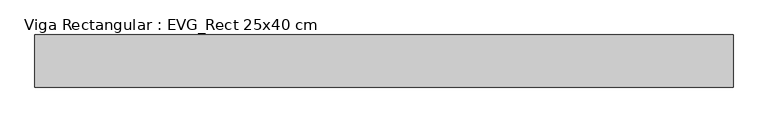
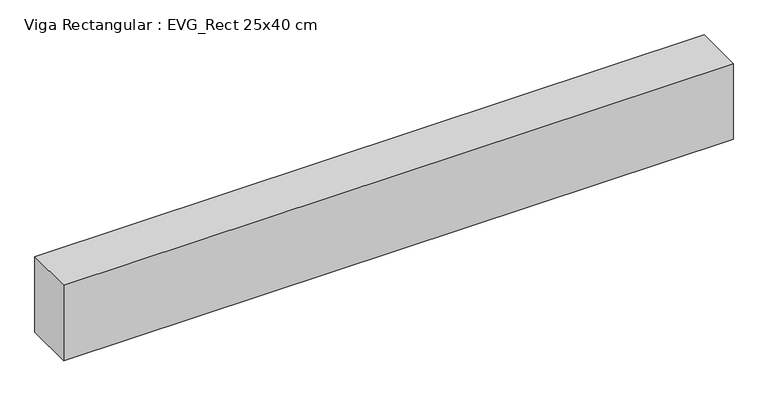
"""IFC4 building model written with IfcOpenShell, lengths in millimetres: beam geometry, Viga Rectangular : EVG_Rect 25x40 cm."""

from ifc_helpers import new_model, si_unit, frame, origin, place, context, project, spatial, polyline, outline, extrude, source, transform, mapped, element, save


def viga_rectangular_evg_rect_25x40_cm_b76ac871(model_context):
    return source(origin(), model_context, "Body", "SweptSolid", [
        extrude(outline(polyline([(1612.5, 125.0), (1612.5, -125.0), (-1737.5, -125.0), (-1737.5, 125.0), (1612.5, 125.0)])), frame((0.0, 0.0, -400.0), z_axis=(0.0, 0.0, 1.0), x_axis=(1.0, 0.0, 0.0)), (0.0, 0.0, 1.0), 400.0),
    ])


if __name__ == "__main__":
    model = new_model("IFC4")
    model_context = context("Model", 3, world=origin())
    ifc_project = project(units=[si_unit("LENGTHUNIT", "METRE", prefix="MILLI")], contexts=[model_context])
    site = spatial("IfcSite", under=ifc_project)
    building = spatial("IfcBuilding", under=site)
    placement = place(None, origin())
    viga_rectangular_evg_rect_25x40_cm_shape = viga_rectangular_evg_rect_25x40_cm_b76ac871(model_context)
    element("IfcBeam", 1, ObjectType="Viga Rectangular : EVG_Rect 25x40 cm", at=placement, inside=building, context=model_context, shape_type="MappedRepresentation", body=[
        mapped(viga_rectangular_evg_rect_25x40_cm_shape, transform((0.0, 0.0, 0.0), x_axis=(1.0, 0.0, 0.0), y_axis=(0.0, 1.0, 0.0), z_axis=(0.0, 0.0, 1.0))),
    ])
    save(model, "model.ifc")
